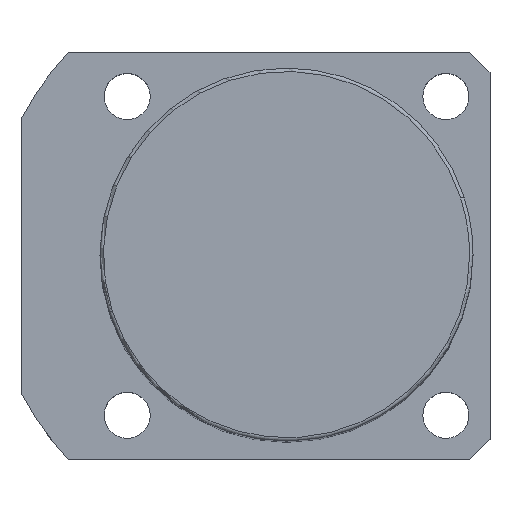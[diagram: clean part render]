
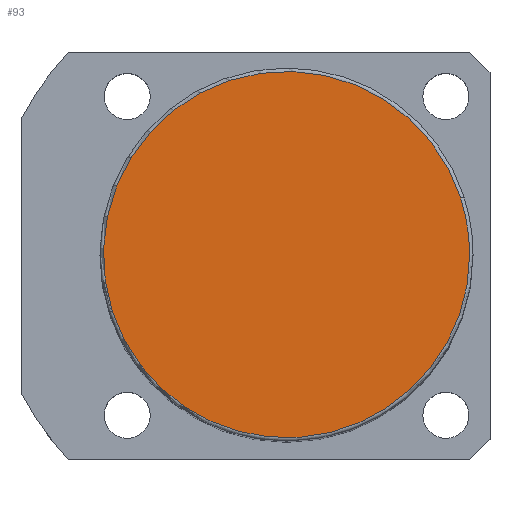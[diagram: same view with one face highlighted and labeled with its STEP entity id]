
A CAD part, top view. The second image highlights one B-rep face of the part: STEP entity #93.
In plain terms, the highlighted planar face has unit normal (0, 0, 1).
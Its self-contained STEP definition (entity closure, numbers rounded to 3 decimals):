
#16=CARTESIAN_POINT('',(25.679,8.343,121.0));
#17=VERTEX_POINT('',#16);
#45=CARTESIAN_POINT('',(-25.679,-8.343,121.0));
#46=VERTEX_POINT('',#45);
#54=CARTESIAN_POINT('',(0.0,0.0,121.0));
#55=DIRECTION('',(0.0,0.0,1.0));
#56=DIRECTION('',(1.0,0.0,0.0));
#57=AXIS2_PLACEMENT_3D('',#54,#55,#56);
#58=CIRCLE('',#57,27.0);
#59=EDGE_CURVE('no 890',#17,#46,#58,.T.);
#69=CARTESIAN_POINT('',(27.0,0.0,121.0));
#70=VERTEX_POINT('',#69);
#71=CARTESIAN_POINT('',(0.0,0.0,121.0));
#72=DIRECTION('',(0.0,0.0,1.0));
#73=DIRECTION('',(1.0,0.0,0.0));
#74=AXIS2_PLACEMENT_3D('',#71,#72,#73);
#75=CIRCLE('',#74,27.0);
#76=EDGE_CURVE('no 899',#70,#17,#75,.T.);
#77=ORIENTED_EDGE('',*,*,#76,.T.);
#78=ORIENTED_EDGE('',*,*,#59,.T.);
#79=CARTESIAN_POINT('',(0.0,0.0,121.0));
#80=DIRECTION('',(0.0,0.0,1.0));
#81=DIRECTION('',(1.0,0.0,0.0));
#82=AXIS2_PLACEMENT_3D('',#79,#80,#81);
#83=CIRCLE('',#82,27.0);
#84=EDGE_CURVE('no 905',#46,#70,#83,.T.);
#85=ORIENTED_EDGE('',*,*,#84,.T.);
#86=EDGE_LOOP('',(#77,#78,#85));
#87=FACE_OUTER_BOUND('',#86,.T.);
#88=CARTESIAN_POINT('',(0.0,0.0,121.0));
#89=DIRECTION('',(0.0,0.0,1.0));
#90=DIRECTION('',(1.0,0.0,0.0));
#91=AXIS2_PLACEMENT_3D('',#88,#89,#90);
#92=PLANE('',#91);
#93=ADVANCED_FACE('no 892',(#87),#92,.T.);
